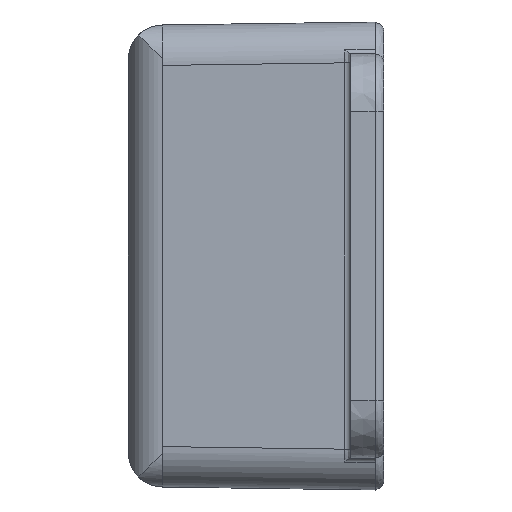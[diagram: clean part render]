
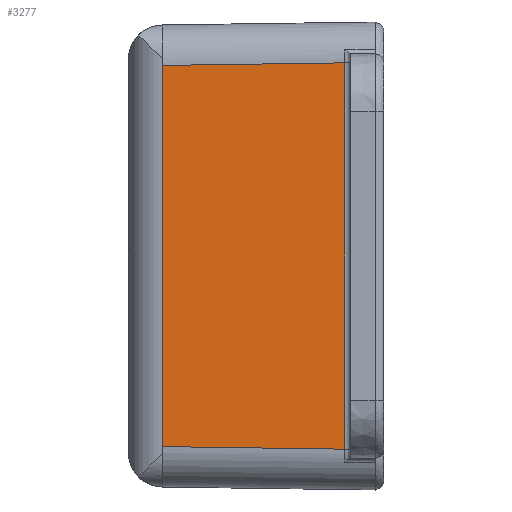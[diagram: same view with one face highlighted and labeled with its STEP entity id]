
A CAD part, left-side view. The second image highlights one B-rep face of the part: STEP entity #3277.
In plain terms, the highlighted planar face has unit normal (-1, 0.014, 0).
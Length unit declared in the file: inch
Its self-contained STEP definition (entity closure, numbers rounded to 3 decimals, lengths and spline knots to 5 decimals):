
#184 = VECTOR ( 'NONE', #6949, 39.37008 ) ;
#873 = CARTESIAN_POINT ( 'NONE',  ( -1.6088, -0.63028, 0.66881 ) ) ;
#1835 = ORIENTED_EDGE ( 'NONE', *, *, #46128, .T. ) ;
#2518 = LINE ( 'NONE', #41274, #12011 ) ;
#3036 = CARTESIAN_POINT ( 'NONE',  ( -1.6, 0., 1.84723 ) ) ;
#3277 = ADVANCED_FACE ( 'NONE', ( #30166 ), #10072, .T. ) ;
#4064 = LINE ( 'NONE', #6141, #15258 ) ;
#6066 = ORIENTED_EDGE ( 'NONE', *, *, #25776, .T. ) ;
#6141 = CARTESIAN_POINT ( 'NONE',  ( -1.6, 0., 1.84723 ) ) ;
#6949 = DIRECTION ( 'NONE',  ( 0.014, 1., 0.014 ) ) ;
#7692 = EDGE_LOOP ( 'NONE', ( #24365, #1835, #12599, #6066 ) ) ;
#10072 = PLANE ( 'NONE',  #12735 ) ;
#10148 = CARTESIAN_POINT ( 'NONE',  ( -1.6088, -0.63028, -0.66881 ) ) ;
#10551 = CARTESIAN_POINT ( 'NONE',  ( -1.61076, -0.77026, -0.67077 ) ) ;
#12011 = VECTOR ( 'NONE', #13491, 39.37008 ) ;
#12533 = VECTOR ( 'NONE', #20570, 39.37008 ) ;
#12599 = ORIENTED_EDGE ( 'NONE', *, *, #37177, .F. ) ;
#12735 = AXIS2_PLACEMENT_3D ( 'NONE', #3036, #31415, #35168 ) ;
#13491 = DIRECTION ( 'NONE',  ( 0., 0., 1. ) ) ;
#15258 = VECTOR ( 'NONE', #45964, 39.37008 ) ;
#16364 = CARTESIAN_POINT ( 'NONE',  ( -1.6, 0., 0.66001 ) ) ;
#16821 = CARTESIAN_POINT ( 'NONE',  ( -1.61076, -0.77026, 0.67077 ) ) ;
#18331 = EDGE_CURVE ( 'NONE', #44530, #40867, #20952, .T. ) ;
#20570 = DIRECTION ( 'NONE',  ( -0.014, -1., 0.014 ) ) ;
#20952 = LINE ( 'NONE', #10551, #184 ) ;
#23417 = CARTESIAN_POINT ( 'NONE',  ( -1.6, 0., -0.66001 ) ) ;
#24365 = ORIENTED_EDGE ( 'NONE', *, *, #18331, .F. ) ;
#24687 = VERTEX_POINT ( 'NONE', #873 ) ;
#25776 = EDGE_CURVE ( 'NONE', #34259, #40867, #4064, .T. ) ;
#30166 = FACE_OUTER_BOUND ( 'NONE', #7692, .T. ) ;
#31415 = DIRECTION ( 'NONE',  ( -1., 0.014, 0. ) ) ;
#34259 = VERTEX_POINT ( 'NONE', #16364 ) ;
#35168 = DIRECTION ( 'NONE',  ( -0.014, -1., 0. ) ) ;
#37177 = EDGE_CURVE ( 'NONE', #34259, #24687, #39479, .T. ) ;
#39479 = LINE ( 'NONE', #16821, #12533 ) ;
#40867 = VERTEX_POINT ( 'NONE', #23417 ) ;
#41274 = CARTESIAN_POINT ( 'NONE',  ( -1.6088, -0.63028, -0.67611 ) ) ;
#44530 = VERTEX_POINT ( 'NONE', #10148 ) ;
#45964 = DIRECTION ( 'NONE',  ( 0., 0., -1. ) ) ;
#46128 = EDGE_CURVE ( 'NONE', #44530, #24687, #2518, .T. ) ;
